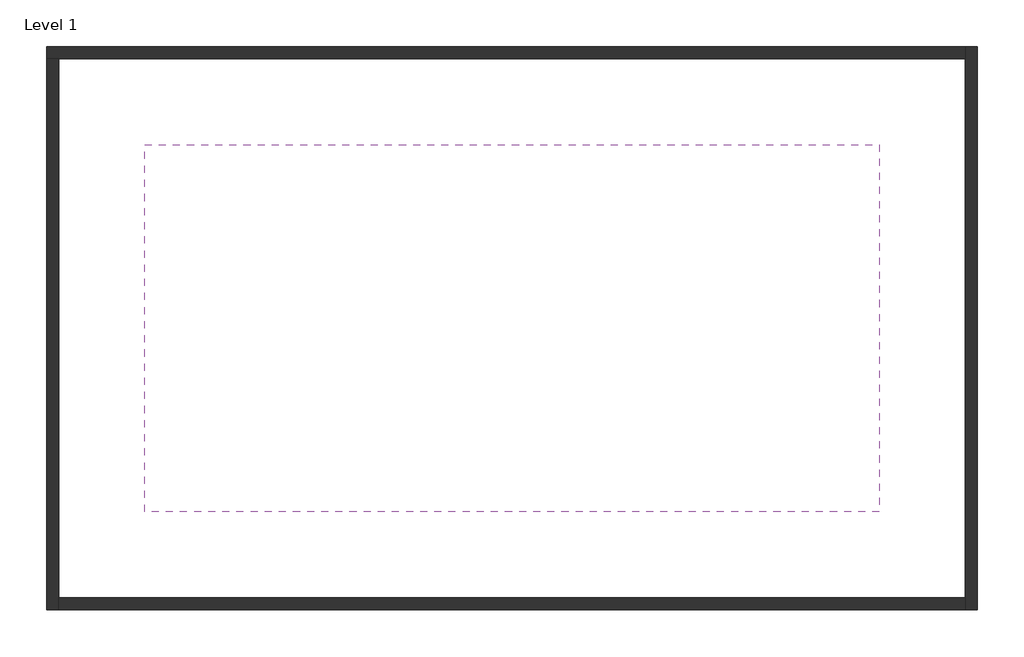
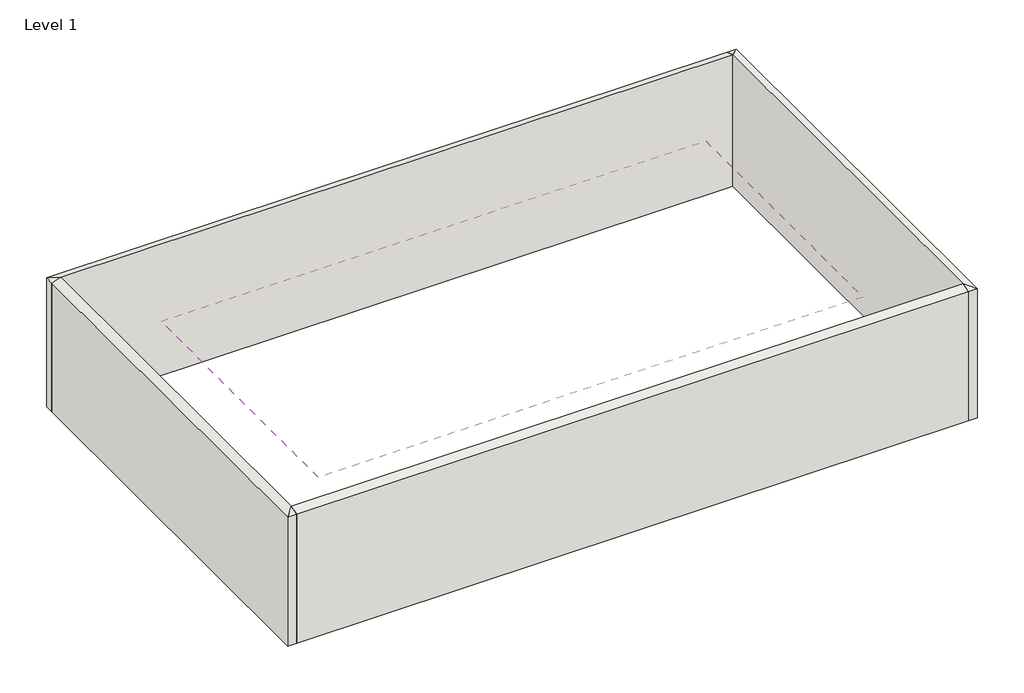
# One storey: 4 walls, 1 covering.
"""IFC4 building model written with IfcOpenShell, lengths in millimetres."""

from ifc_helpers import new_model, si_unit, frame, origin, place, context, project, spatial, polyline, outline, extrude, faceted_brep, element, save

model = new_model("IFC4")

# Units and contexts
model_context = context("Model", 3, world=origin())
ifc_project = project(units=[si_unit("LENGTHUNIT", "METRE", prefix="MILLI")], contexts=[model_context])

# Site, building, storey
site = spatial("IfcSite", under=ifc_project)
building = spatial("IfcBuilding", under=site)
storey = spatial("IfcBuildingStorey", under=building, Name="Level 1", Elevation=0.0)

# Covering
placement = place(None, origin())
element("IfcCovering", 1, ObjectType="2' x 2' ACT System", at=placement, inside=storey, context=model_context, shape_type="SweptSolid", body=[
    extrude(outline(polyline([(5976.66091, 7789.7412302), (5976.66091, 1693.7412302), (-6215.33909, 1693.7412302), (-6215.33909, 7789.7412302), (5976.66091, 7789.7412302)])), frame((0.0, 0.0, 2438.4), z_axis=(0.0, 0.0, 1.0), x_axis=(1.0, 0.0, 0.0)), (0.0, 0.0, 1.0), 57.15),
])

# Walls
element("IfcWall", 2, ObjectType="Generic - 8\"", at=placement, inside=storey, context=model_context, shape_type="Brep", body=[
    faceted_brep([(-7840.93909, 9212.1412302, 0.0), (-7637.73909, 9212.1412302, 0.0), (7399.06091, 9212.1412302, 0.0), (7399.06091, 9212.1412302, 3115.7333333), (-7637.73909, 9212.1412302, 3115.7333333), (-7840.93909, 9212.1412302, 3048.0), (-7840.93909, 9415.3412302, 0.0), (-7840.93909, 9415.3412302, 3048.0), (7399.06091, 9415.3412302, 3048.0), (7399.06091, 9415.3412302, 0.0)], [[[0, 1, 2, 3, 4, 5]], [[6, 7, 8, 9]], [[2, 1, 0, 6, 9]], [[0, 5, 7, 6]], [[3, 2, 9, 8]], [[5, 4, 7]], [[4, 3, 8, 7]]]),
])
element("IfcWall", 3, ObjectType="Generic - 8\"", at=placement, inside=storey, context=model_context, shape_type="Brep", body=[
    faceted_brep([(-7637.73909, 68.1412302, 0.0), (-7637.73909, 271.3412302, 0.0), (-7637.73909, 9212.1412302, 0.0), (-7637.73909, 9212.1412302, 3115.7333333), (-7637.73909, 271.3412302, 3115.7333333), (-7637.73909, 68.1412302, 3048.0), (-7840.93909, 68.1412302, 0.0), (-7840.93909, 68.1412302, 3048.0), (-7840.93909, 9212.1412302, 3048.0), (-7840.93909, 9212.1412302, 0.0)], [[[0, 1, 2, 3, 4, 5]], [[6, 7, 8, 9]], [[2, 1, 0, 6, 9]], [[0, 5, 7, 6]], [[3, 2, 9, 8]], [[5, 4, 7]], [[4, 3, 8, 7]]]),
])
element("IfcWall", 4, ObjectType="Generic - 8\"", at=placement, inside=storey, context=model_context, shape_type="SweptSolid", body=[
    extrude(outline(polyline([(271.3412302, 3115.7333333), (271.3412302, 0.0), (68.1412302, 0.0), (68.1412302, 3048.0), (271.3412302, 3115.7333333)])), frame((-7637.73909, 0.0, 0.0), z_axis=(1.0, 0.0, 0.0), x_axis=(0.0, 1.0, 0.0)), (0.0, 0.0, 1.0), 15036.8),
])
element("IfcWall", 5, ObjectType="Generic - 8\"", at=placement, inside=storey, context=model_context, shape_type="Brep", body=[
    faceted_brep([(7399.06091, 9415.3412302, 0.0), (7399.06091, 9212.1412302, 0.0), (7399.06091, 271.3412302, 0.0), (7399.06091, 68.1412302, 0.0), (7399.06091, 68.1412302, 3048.0), (7399.06091, 271.3412302, 3115.7333333), (7399.06091, 9212.1412302, 3115.7333333), (7399.06091, 9415.3412302, 3048.0), (7602.26091, 9415.3412302, 0.0), (7602.26091, 9415.3412302, 3048.0), (7602.26091, 68.1412302, 3048.0), (7602.26091, 68.1412302, 0.0)], [[[0, 1, 2, 3, 4, 5, 6, 7]], [[8, 9, 10, 11]], [[3, 2, 1, 0, 8, 11]], [[0, 7, 9, 8]], [[4, 3, 11, 10]], [[7, 6, 9]], [[6, 5, 10, 9]], [[5, 4, 10]]]),
])

save(model, "model.ifc")
